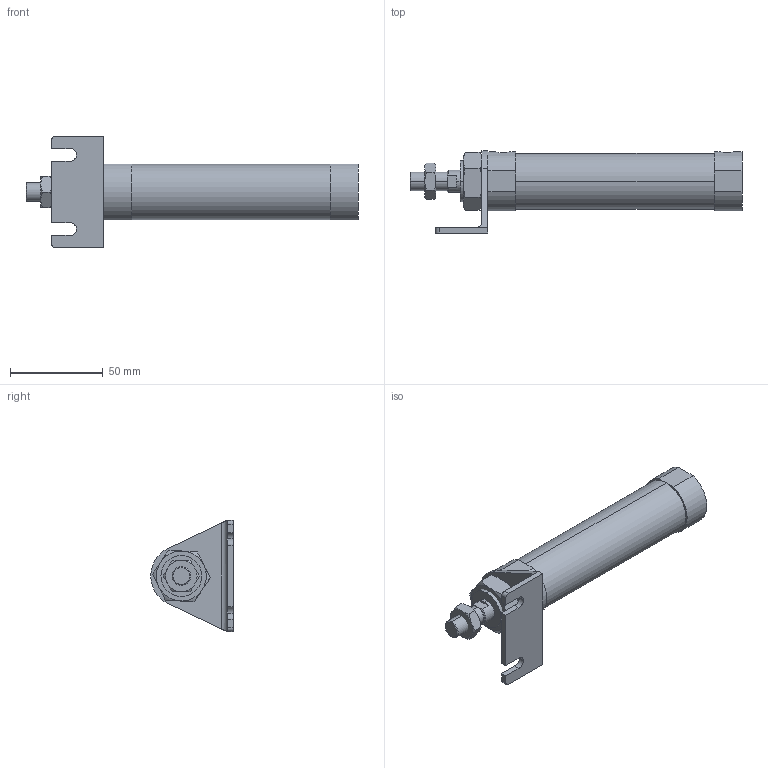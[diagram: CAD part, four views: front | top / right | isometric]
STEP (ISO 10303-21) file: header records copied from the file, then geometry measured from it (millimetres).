
FILE_DESCRIPTION (( 'STEP AP203' ), '1' );
FILE_NAME ('JGND2-25-75-L.STEP', '2016-08-04T02:38:06', ( '' ), ( '' ), 'SwSTEP 2.0', 'SolidWorks 2014', '' );
FILE_SCHEMA (( 'CONFIG_CONTROL_DESIGN' ));
Length unit declared in the file: millimetre
Products named in the file (5): JGND2-25-75-L; J#2-25-L; J#2-25-75(P)
Assembly tree (4 placements, depth 2):
  JGND2-25-75-L
    J#2-25-75(P)
    (unnamed)
    (unnamed)
    J#2-25-L
Bounding box: 179 x 44.5 x 60 mm (x, y, z)
Volume: 117762.4 mm3; surface area: 27483.2 mm2
Topology: 4 solids, 4 shells, 115 faces, 268 edges, 162 vertices
Faces by surface type: plane 50, cylinder 33, torus 24, cone 8
Entity records: 4077 total; most frequent: CARTESIAN_POINT 994, DIRECTION 542, ORIENTED_EDGE 528, EDGE_CURVE 264, AXIS2_PLACEMENT_3D 214, VERTEX_POINT 162, EDGE_LOOP 126, FACE_OUTER_BOUND 115
